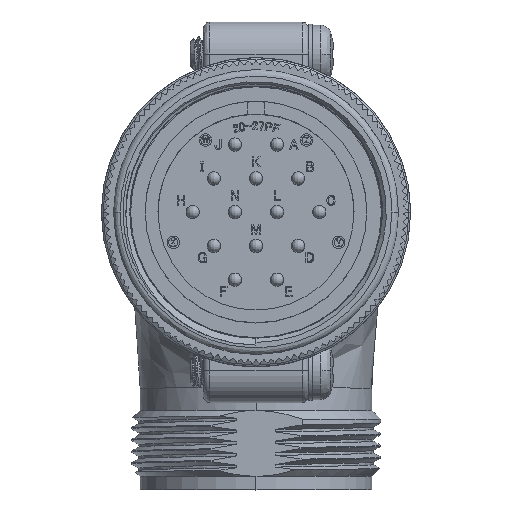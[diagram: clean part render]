
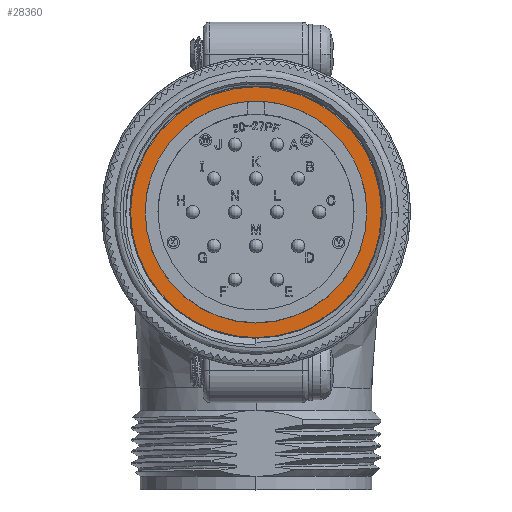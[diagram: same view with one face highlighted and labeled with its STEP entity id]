
A CAD part, top view. The second image highlights one B-rep face of the part: STEP entity #28360.
In plain terms, the highlighted planar face has unit normal (0, 0, 1).
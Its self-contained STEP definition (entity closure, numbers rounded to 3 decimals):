
#2057 = CARTESIAN_POINT ( 'NONE',  ( 0., 15.1, -18.25 ) ) ;
#2368 = DIRECTION ( 'NONE',  ( 0., 0., 1. ) ) ;
#5721 = AXIS2_PLACEMENT_3D ( 'NONE', #90152, #33739, #99566 ) ;
#10919 = AXIS2_PLACEMENT_3D ( 'NONE', #109093, #52736, #118431 ) ;
#11119 = VERTEX_POINT ( 'NONE', #101270 ) ;
#11285 = CARTESIAN_POINT ( 'NONE',  ( -13.335, 0., -18.25 ) ) ;
#15543 = VERTEX_POINT ( 'NONE', #11285 ) ;
#15778 = ORIENTED_EDGE ( 'NONE', *, *, #34391, .F. ) ;
#17685 = ORIENTED_EDGE ( 'NONE', *, *, #25745, .F. ) ;
#21427 = FACE_BOUND ( 'NONE', #92521, .T. ) ;
#25745 = EDGE_CURVE ( 'NONE', #73044, #116800, #70362, .T. ) ;
#28360 = ADVANCED_FACE ( 'NONE', ( #71532, #21427 ), #87204, .F. ) ;
#29720 = CIRCLE ( 'NONE', #5721, 13.335 ) ;
#30229 = AXIS2_PLACEMENT_3D ( 'NONE', #59127, #2368, #68611 ) ;
#30780 = DIRECTION ( 'NONE',  ( 0., 0., -1. ) ) ;
#33739 = DIRECTION ( 'NONE',  ( 0., 0., 1. ) ) ;
#34391 = EDGE_CURVE ( 'NONE', #15543, #11119, #72215, .T. ) ;
#40132 = DIRECTION ( 'NONE',  ( 0., 0., -1. ) ) ;
#42488 = ORIENTED_EDGE ( 'NONE', *, *, #119123, .F. ) ;
#52736 = DIRECTION ( 'NONE',  ( 0., 0., -1. ) ) ;
#59127 = CARTESIAN_POINT ( 'NONE',  ( 0., 0., -18.25 ) ) ;
#61935 = EDGE_LOOP ( 'NONE', ( #109771, #17685 ) ) ;
#68611 = DIRECTION ( 'NONE',  ( 1., 0., 0. ) ) ;
#70362 = CIRCLE ( 'NONE', #87199, 15.1 ) ;
#71532 = FACE_OUTER_BOUND ( 'NONE', #61935, .T. ) ;
#72215 = CIRCLE ( 'NONE', #30229, 13.335 ) ;
#73044 = VERTEX_POINT ( 'NONE', #88916 ) ;
#87199 = AXIS2_PLACEMENT_3D ( 'NONE', #96501, #40132, #105908 ) ;
#87204 = PLANE ( 'NONE',  #120942 ) ;
#88916 = CARTESIAN_POINT ( 'NONE',  ( -15.1, 0., -18.25 ) ) ;
#89002 = CARTESIAN_POINT ( 'NONE',  ( 15.1, 0., -18.25 ) ) ;
#89822 = EDGE_CURVE ( 'NONE', #116800, #73044, #105521, .T. ) ;
#90152 = CARTESIAN_POINT ( 'NONE',  ( 0., 0., -18.25 ) ) ;
#92521 = EDGE_LOOP ( 'NONE', ( #42488, #15778 ) ) ;
#96501 = CARTESIAN_POINT ( 'NONE',  ( 0., 0., -18.25 ) ) ;
#96594 = DIRECTION ( 'NONE',  ( -1., 0., 0. ) ) ;
#99566 = DIRECTION ( 'NONE',  ( 1., 0., 0. ) ) ;
#101270 = CARTESIAN_POINT ( 'NONE',  ( 13.335, 0., -18.25 ) ) ;
#105521 = CIRCLE ( 'NONE', #10919, 15.1 ) ;
#105908 = DIRECTION ( 'NONE',  ( 1., 0., 0. ) ) ;
#109093 = CARTESIAN_POINT ( 'NONE',  ( 0., 0., -18.25 ) ) ;
#109771 = ORIENTED_EDGE ( 'NONE', *, *, #89822, .F. ) ;
#116800 = VERTEX_POINT ( 'NONE', #89002 ) ;
#118431 = DIRECTION ( 'NONE',  ( 1., 0., 0. ) ) ;
#119123 = EDGE_CURVE ( 'NONE', #11119, #15543, #29720, .T. ) ;
#120942 = AXIS2_PLACEMENT_3D ( 'NONE', #2057, #30780, #96594 ) ;
